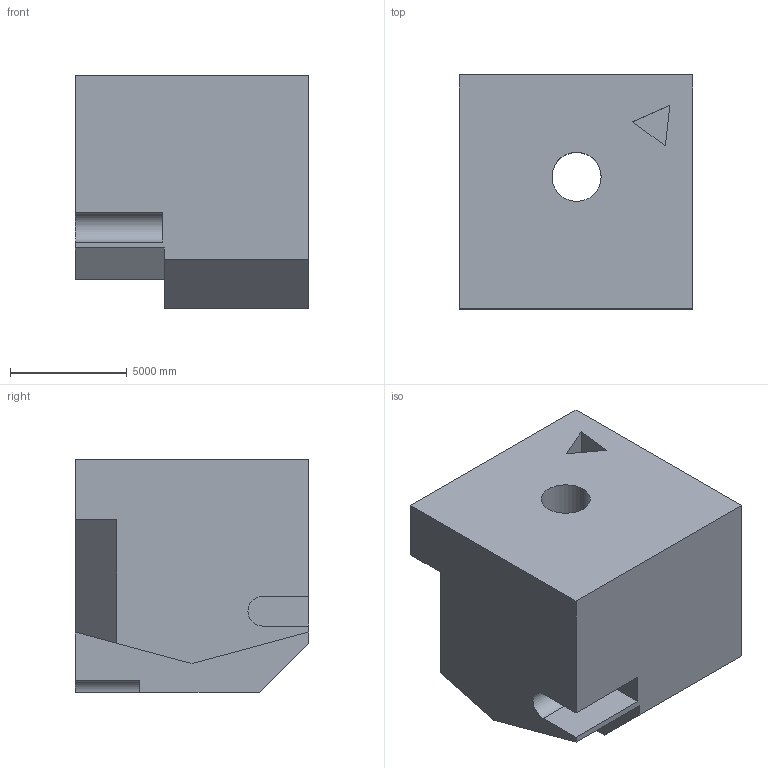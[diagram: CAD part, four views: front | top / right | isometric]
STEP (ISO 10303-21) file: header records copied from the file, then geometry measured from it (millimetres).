
FILE_DESCRIPTION (( 'STEP AP203' ), '1' );
FILE_NAME ('714.STEP', '2022-08-04T15:44:10', ( 'user' ), ( '' ), 'SwSTEP 2.0', 'SolidWorks 2021', '' );
FILE_SCHEMA (( 'CONFIG_CONTROL_DESIGN' ));
Length unit declared in the file: centimetre
Products named in the file (1): 714
Bounding box: 10000 x 10000 x 10000 mm (x, y, z)
Volume: 839092443646.6 mm3; surface area: 655486197.8 mm2
Topology: 1 solids, 1 shells, 27 faces, 72 edges, 48 vertices
Faces by surface type: plane 23, cylinder 4
Entity records: 915 total; most frequent: CARTESIAN_POINT 148, ORIENTED_EDGE 144, DIRECTION 136, EDGE_CURVE 72, LINE 64, VECTOR 64, VERTEX_POINT 48, AXIS2_PLACEMENT_3D 36
